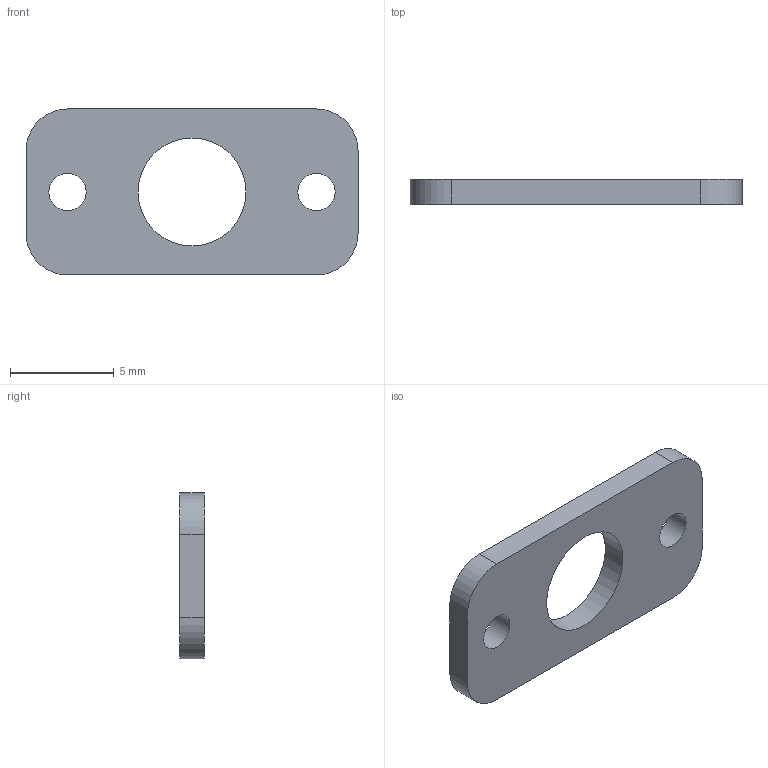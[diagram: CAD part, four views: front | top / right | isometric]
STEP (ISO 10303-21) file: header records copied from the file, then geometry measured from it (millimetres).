
FILE_DESCRIPTION(('Open CASCADE Model'),'2;1');
FILE_NAME('LED_PACKAGE_RETAINER','2026-09-06T11:49:07',('Author'),( 'Open CASCADE'),'Open CASCADE STEP processor 7.8','build123d', 'Unknown');
FILE_SCHEMA(('AUTOMOTIVE_DESIGN { 1 0 10303 214 1 1 1 1 }'));
Length unit declared in the file: millimetre
Products named in the file (2): =>[0:1:1:2]; LED_PACKAGE_RETAINER
Assembly tree (1 placements, depth 2):
  =>[0:1:1:2]
    LED_PACKAGE_RETAINER
Bounding box: 16 x 1.2 x 8 mm (x, y, z)
Volume: 117.9 mm3; surface area: 283.1 mm2
Topology: 1 solids, 1 shells, 13 faces, 33 edges, 22 vertices
Faces by surface type: cylinder 7, plane 6
Full cylindrical faces by diameter (mm): 1.8 x2, 5.2 x1
Entity records: 870 total; most frequent: DIRECTION 143, CARTESIAN_POINT 136, LINE 71, VECTOR 71, ORIENTED_EDGE 66, PCURVE 66, DEFINITIONAL_REPRESENTATION 66, EDGE_CURVE 33
